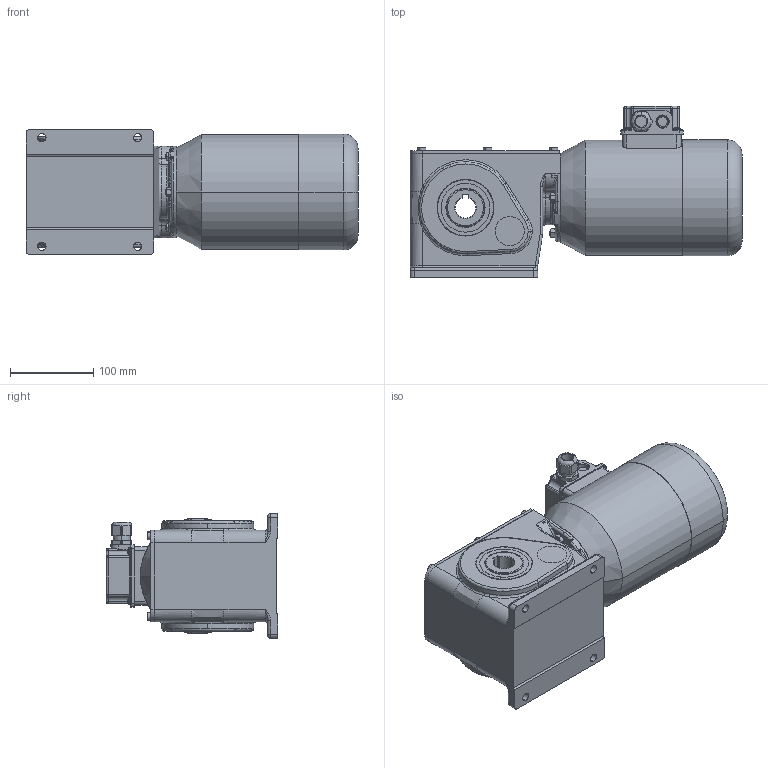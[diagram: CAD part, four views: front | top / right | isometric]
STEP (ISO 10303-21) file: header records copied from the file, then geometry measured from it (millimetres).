
FILE_DESCRIPTION (( 'STEP AP214' ), '1' );
FILE_NAME ('SN19H_250W_1400Upm_Drehstrom_Motor_A.STEP', '2022-08-10T07:49:16', ( '' ), ( '' ), 'SwSTEP 2.0', 'SolidWorks 2021', '' );
FILE_SCHEMA (( 'AUTOMOTIVE_DESIGN' ));
Length unit declared in the file: millimetre
Products named in the file (12): 19H-W-001_3D-Export; SN19H_3D-Export_Welle 1; SN19H_250W_1400Upm_Drehstrom_Motor_A; K_35x8.0; socket head cap screw_iso_ISO 4762 M6 x 25 - 25C; hex nut style 1 gradeab_iso_ISO - 4032 - M6 - D - C; 19-D-002; 09-M-230 I 250W_1400Upm; 19-G-002_3D-Export; DIN6912 - M6x16; socket set screw cup point_iso_ISO 4029 - M6 x 25-C; NBR_WDR_45x68x10
Assembly tree (22 placements, depth 3):
  SN19H_250W_1400Upm_Drehstrom_Motor_A
    SN19H_3D-Export_Welle 1
      19-G-002_3D-Export
      19-D-002
      19H-W-001_3D-Export
      K_35x8.0  x2
      NBR_WDR_45x68x10  x2
      DIN6912 - M6x16  x6
      socket head cap screw_iso_ISO 4762 M6 x 25 - 25C
      socket set screw cup point_iso_ISO 4029 - M6 x 25-C  x3
      hex nut style 1 gradeab_iso_ISO - 4032 - M6 - D - C  x3
    09-M-230 I 250W_1400Upm
Bounding box: 398 x 206 x 150 mm (x, y, z)
Volume: 6251974.9 mm3; surface area: 433115.2 mm2
Topology: 23 solids, 23 shells, 1197 faces, 2934 edges, 1800 vertices
Faces by surface type: cylinder 369, plane 344, cone 208, torus 166, bspline 86, sphere 24
Entity records: 32921 total; most frequent: CARTESIAN_POINT 9027, DIRECTION 5034, ORIENTED_EDGE 4806, EDGE_CURVE 2403, AXIS2_PLACEMENT_3D 2058, VERTEX_POINT 1511, CIRCLE 1146, EDGE_LOOP 1064
